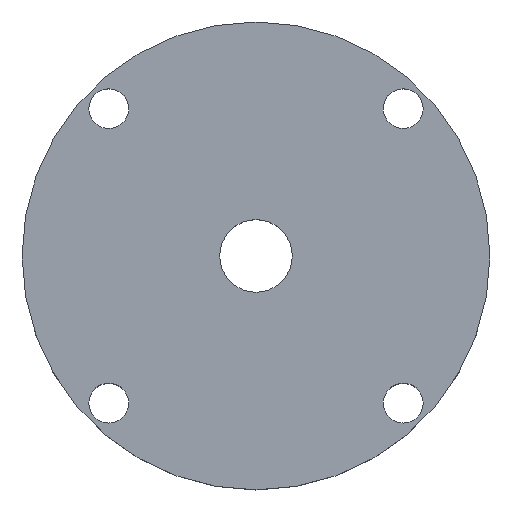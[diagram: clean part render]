
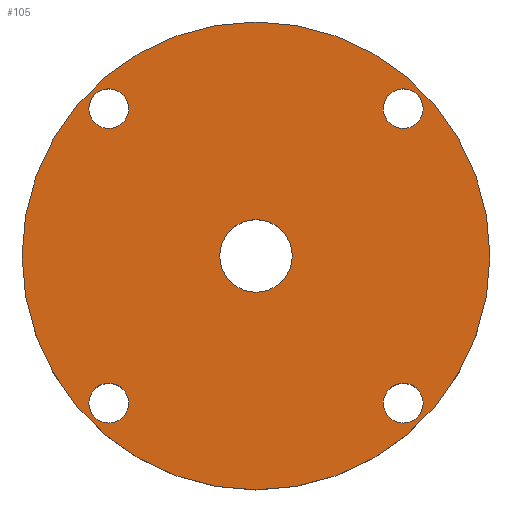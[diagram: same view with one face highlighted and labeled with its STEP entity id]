
A CAD part, top view. The second image highlights one B-rep face of the part: STEP entity #105.
In plain terms, the highlighted planar face has unit normal (0, 0, 1).
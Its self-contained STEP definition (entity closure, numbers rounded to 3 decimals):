
#21 = EDGE_CURVE('',#22,#22,#24,.T.);
#22 = VERTEX_POINT('',#23);
#23 = CARTESIAN_POINT('',(10.,0.,0.));
#24 = SURFACE_CURVE('',#25,(#30,#42),.PCURVE_S1.);
#25 = CIRCLE('',#26,10.);
#26 = AXIS2_PLACEMENT_3D('',#27,#28,#29);
#27 = CARTESIAN_POINT('',(0.,0.,0.));
#28 = DIRECTION('',(0.,0.,1.));
#29 = DIRECTION('',(1.,0.,-0.));
#30 = PCURVE('',#31,#36);
#31 = CYLINDRICAL_SURFACE('',#32,10.);
#32 = AXIS2_PLACEMENT_3D('',#33,#34,#35);
#33 = CARTESIAN_POINT('',(0.,0.,-3.));
#34 = DIRECTION('',(0.,0.,1.));
#35 = DIRECTION('',(1.,0.,-0.));
#36 = DEFINITIONAL_REPRESENTATION('',(#37),#41);
#37 = LINE('',#38,#39);
#38 = CARTESIAN_POINT('',(0.,3.));
#39 = VECTOR('',#40,1.);
#40 = DIRECTION('',(1.,0.));
#41 = ( GEOMETRIC_REPRESENTATION_CONTEXT(2) 
PARAMETRIC_REPRESENTATION_CONTEXT() REPRESENTATION_CONTEXT('2D SPACE',''
  ) );
#42 = PCURVE('',#43,#48);
#43 = PLANE('',#44);
#44 = AXIS2_PLACEMENT_3D('',#45,#46,#47);
#45 = CARTESIAN_POINT('',(0.,0.,0.));
#46 = DIRECTION('',(0.,0.,1.));
#47 = DIRECTION('',(1.,0.,-0.));
#48 = DEFINITIONAL_REPRESENTATION('',(#49),#53);
#49 = CIRCLE('',#50,10.);
#50 = AXIS2_PLACEMENT_2D('',#51,#52);
#51 = CARTESIAN_POINT('',(0.,0.));
#52 = DIRECTION('',(1.,0.));
#53 = ( GEOMETRIC_REPRESENTATION_CONTEXT(2) 
PARAMETRIC_REPRESENTATION_CONTEXT() REPRESENTATION_CONTEXT('2D SPACE',''
  ) );
#105 = ADVANCED_FACE('',(#106,#109,#140,#171,#202,#233),#43,.T.);
#106 = FACE_BOUND('',#107,.T.);
#107 = EDGE_LOOP('',(#108));
#108 = ORIENTED_EDGE('',*,*,#21,.T.);
#109 = FACE_BOUND('',#110,.T.);
#110 = EDGE_LOOP('',(#111));
#111 = ORIENTED_EDGE('',*,*,#112,.F.);
#112 = EDGE_CURVE('',#113,#113,#115,.T.);
#113 = VERTEX_POINT('',#114);
#114 = CARTESIAN_POINT('',(-5.443,-6.293,0.));
#115 = SURFACE_CURVE('',#116,(#121,#128),.PCURVE_S1.);
#116 = CIRCLE('',#117,0.85);
#117 = AXIS2_PLACEMENT_3D('',#118,#119,#120);
#118 = CARTESIAN_POINT('',(-6.293,-6.293,0.));
#119 = DIRECTION('',(0.,0.,1.));
#120 = DIRECTION('',(1.,0.,-0.));
#121 = PCURVE('',#43,#122);
#122 = DEFINITIONAL_REPRESENTATION('',(#123),#127);
#123 = CIRCLE('',#124,0.85);
#124 = AXIS2_PLACEMENT_2D('',#125,#126);
#125 = CARTESIAN_POINT('',(-6.293,-6.293));
#126 = DIRECTION('',(1.,0.));
#127 = ( GEOMETRIC_REPRESENTATION_CONTEXT(2) 
PARAMETRIC_REPRESENTATION_CONTEXT() REPRESENTATION_CONTEXT('2D SPACE',''
  ) );
#128 = PCURVE('',#129,#134);
#129 = CYLINDRICAL_SURFACE('',#130,0.85);
#130 = AXIS2_PLACEMENT_3D('',#131,#132,#133);
#131 = CARTESIAN_POINT('',(-6.293,-6.293,-3.1));
#132 = DIRECTION('',(0.,0.,1.));
#133 = DIRECTION('',(1.,0.,-0.));
#134 = DEFINITIONAL_REPRESENTATION('',(#135),#139);
#135 = LINE('',#136,#137);
#136 = CARTESIAN_POINT('',(0.,3.1));
#137 = VECTOR('',#138,1.);
#138 = DIRECTION('',(1.,0.));
#139 = ( GEOMETRIC_REPRESENTATION_CONTEXT(2) 
PARAMETRIC_REPRESENTATION_CONTEXT() REPRESENTATION_CONTEXT('2D SPACE',''
  ) );
#140 = FACE_BOUND('',#141,.T.);
#141 = EDGE_LOOP('',(#142));
#142 = ORIENTED_EDGE('',*,*,#143,.F.);
#143 = EDGE_CURVE('',#144,#144,#146,.T.);
#144 = VERTEX_POINT('',#145);
#145 = CARTESIAN_POINT('',(7.143,-6.293,0.));
#146 = SURFACE_CURVE('',#147,(#152,#159),.PCURVE_S1.);
#147 = CIRCLE('',#148,0.85);
#148 = AXIS2_PLACEMENT_3D('',#149,#150,#151);
#149 = CARTESIAN_POINT('',(6.293,-6.293,0.));
#150 = DIRECTION('',(0.,0.,1.));
#151 = DIRECTION('',(1.,0.,-0.));
#152 = PCURVE('',#43,#153);
#153 = DEFINITIONAL_REPRESENTATION('',(#154),#158);
#154 = CIRCLE('',#155,0.85);
#155 = AXIS2_PLACEMENT_2D('',#156,#157);
#156 = CARTESIAN_POINT('',(6.293,-6.293));
#157 = DIRECTION('',(1.,0.));
#158 = ( GEOMETRIC_REPRESENTATION_CONTEXT(2) 
PARAMETRIC_REPRESENTATION_CONTEXT() REPRESENTATION_CONTEXT('2D SPACE',''
  ) );
#159 = PCURVE('',#160,#165);
#160 = CYLINDRICAL_SURFACE('',#161,0.85);
#161 = AXIS2_PLACEMENT_3D('',#162,#163,#164);
#162 = CARTESIAN_POINT('',(6.293,-6.293,-3.1));
#163 = DIRECTION('',(0.,0.,1.));
#164 = DIRECTION('',(1.,0.,-0.));
#165 = DEFINITIONAL_REPRESENTATION('',(#166),#170);
#166 = LINE('',#167,#168);
#167 = CARTESIAN_POINT('',(0.,3.1));
#168 = VECTOR('',#169,1.);
#169 = DIRECTION('',(1.,0.));
#170 = ( GEOMETRIC_REPRESENTATION_CONTEXT(2) 
PARAMETRIC_REPRESENTATION_CONTEXT() REPRESENTATION_CONTEXT('2D SPACE',''
  ) );
#171 = FACE_BOUND('',#172,.T.);
#172 = EDGE_LOOP('',(#173));
#173 = ORIENTED_EDGE('',*,*,#174,.F.);
#174 = EDGE_CURVE('',#175,#175,#177,.T.);
#175 = VERTEX_POINT('',#176);
#176 = CARTESIAN_POINT('',(-5.443,6.293,0.));
#177 = SURFACE_CURVE('',#178,(#183,#190),.PCURVE_S1.);
#178 = CIRCLE('',#179,0.85);
#179 = AXIS2_PLACEMENT_3D('',#180,#181,#182);
#180 = CARTESIAN_POINT('',(-6.293,6.293,0.));
#181 = DIRECTION('',(0.,0.,1.));
#182 = DIRECTION('',(1.,0.,-0.));
#183 = PCURVE('',#43,#184);
#184 = DEFINITIONAL_REPRESENTATION('',(#185),#189);
#185 = CIRCLE('',#186,0.85);
#186 = AXIS2_PLACEMENT_2D('',#187,#188);
#187 = CARTESIAN_POINT('',(-6.293,6.293));
#188 = DIRECTION('',(1.,0.));
#189 = ( GEOMETRIC_REPRESENTATION_CONTEXT(2) 
PARAMETRIC_REPRESENTATION_CONTEXT() REPRESENTATION_CONTEXT('2D SPACE',''
  ) );
#190 = PCURVE('',#191,#196);
#191 = CYLINDRICAL_SURFACE('',#192,0.85);
#192 = AXIS2_PLACEMENT_3D('',#193,#194,#195);
#193 = CARTESIAN_POINT('',(-6.293,6.293,-3.1));
#194 = DIRECTION('',(0.,0.,1.));
#195 = DIRECTION('',(1.,0.,-0.));
#196 = DEFINITIONAL_REPRESENTATION('',(#197),#201);
#197 = LINE('',#198,#199);
#198 = CARTESIAN_POINT('',(0.,3.1));
#199 = VECTOR('',#200,1.);
#200 = DIRECTION('',(1.,0.));
#201 = ( GEOMETRIC_REPRESENTATION_CONTEXT(2) 
PARAMETRIC_REPRESENTATION_CONTEXT() REPRESENTATION_CONTEXT('2D SPACE',''
  ) );
#202 = FACE_BOUND('',#203,.T.);
#203 = EDGE_LOOP('',(#204));
#204 = ORIENTED_EDGE('',*,*,#205,.F.);
#205 = EDGE_CURVE('',#206,#206,#208,.T.);
#206 = VERTEX_POINT('',#207);
#207 = CARTESIAN_POINT('',(1.55,0.,0.));
#208 = SURFACE_CURVE('',#209,(#214,#221),.PCURVE_S1.);
#209 = CIRCLE('',#210,1.55);
#210 = AXIS2_PLACEMENT_3D('',#211,#212,#213);
#211 = CARTESIAN_POINT('',(0.,0.,0.));
#212 = DIRECTION('',(0.,0.,1.));
#213 = DIRECTION('',(1.,0.,-0.));
#214 = PCURVE('',#43,#215);
#215 = DEFINITIONAL_REPRESENTATION('',(#216),#220);
#216 = CIRCLE('',#217,1.55);
#217 = AXIS2_PLACEMENT_2D('',#218,#219);
#218 = CARTESIAN_POINT('',(0.,0.));
#219 = DIRECTION('',(1.,0.));
#220 = ( GEOMETRIC_REPRESENTATION_CONTEXT(2) 
PARAMETRIC_REPRESENTATION_CONTEXT() REPRESENTATION_CONTEXT('2D SPACE',''
  ) );
#221 = PCURVE('',#222,#227);
#222 = CYLINDRICAL_SURFACE('',#223,1.55);
#223 = AXIS2_PLACEMENT_3D('',#224,#225,#226);
#224 = CARTESIAN_POINT('',(0.,0.,-3.01));
#225 = DIRECTION('',(0.,0.,1.));
#226 = DIRECTION('',(1.,0.,-0.));
#227 = DEFINITIONAL_REPRESENTATION('',(#228),#232);
#228 = LINE('',#229,#230);
#229 = CARTESIAN_POINT('',(0.,3.01));
#230 = VECTOR('',#231,1.);
#231 = DIRECTION('',(1.,0.));
#232 = ( GEOMETRIC_REPRESENTATION_CONTEXT(2) 
PARAMETRIC_REPRESENTATION_CONTEXT() REPRESENTATION_CONTEXT('2D SPACE',''
  ) );
#233 = FACE_BOUND('',#234,.T.);
#234 = EDGE_LOOP('',(#235));
#235 = ORIENTED_EDGE('',*,*,#236,.F.);
#236 = EDGE_CURVE('',#237,#237,#239,.T.);
#237 = VERTEX_POINT('',#238);
#238 = CARTESIAN_POINT('',(7.143,6.293,0.));
#239 = SURFACE_CURVE('',#240,(#245,#252),.PCURVE_S1.);
#240 = CIRCLE('',#241,0.85);
#241 = AXIS2_PLACEMENT_3D('',#242,#243,#244);
#242 = CARTESIAN_POINT('',(6.293,6.293,0.));
#243 = DIRECTION('',(0.,0.,1.));
#244 = DIRECTION('',(1.,0.,-0.));
#245 = PCURVE('',#43,#246);
#246 = DEFINITIONAL_REPRESENTATION('',(#247),#251);
#247 = CIRCLE('',#248,0.85);
#248 = AXIS2_PLACEMENT_2D('',#249,#250);
#249 = CARTESIAN_POINT('',(6.293,6.293));
#250 = DIRECTION('',(1.,0.));
#251 = ( GEOMETRIC_REPRESENTATION_CONTEXT(2) 
PARAMETRIC_REPRESENTATION_CONTEXT() REPRESENTATION_CONTEXT('2D SPACE',''
  ) );
#252 = PCURVE('',#253,#258);
#253 = CYLINDRICAL_SURFACE('',#254,0.85);
#254 = AXIS2_PLACEMENT_3D('',#255,#256,#257);
#255 = CARTESIAN_POINT('',(6.293,6.293,-3.1));
#256 = DIRECTION('',(0.,0.,1.));
#257 = DIRECTION('',(1.,0.,-0.));
#258 = DEFINITIONAL_REPRESENTATION('',(#259),#263);
#259 = LINE('',#260,#261);
#260 = CARTESIAN_POINT('',(0.,3.1));
#261 = VECTOR('',#262,1.);
#262 = DIRECTION('',(1.,0.));
#263 = ( GEOMETRIC_REPRESENTATION_CONTEXT(2) 
PARAMETRIC_REPRESENTATION_CONTEXT() REPRESENTATION_CONTEXT('2D SPACE',''
  ) );
